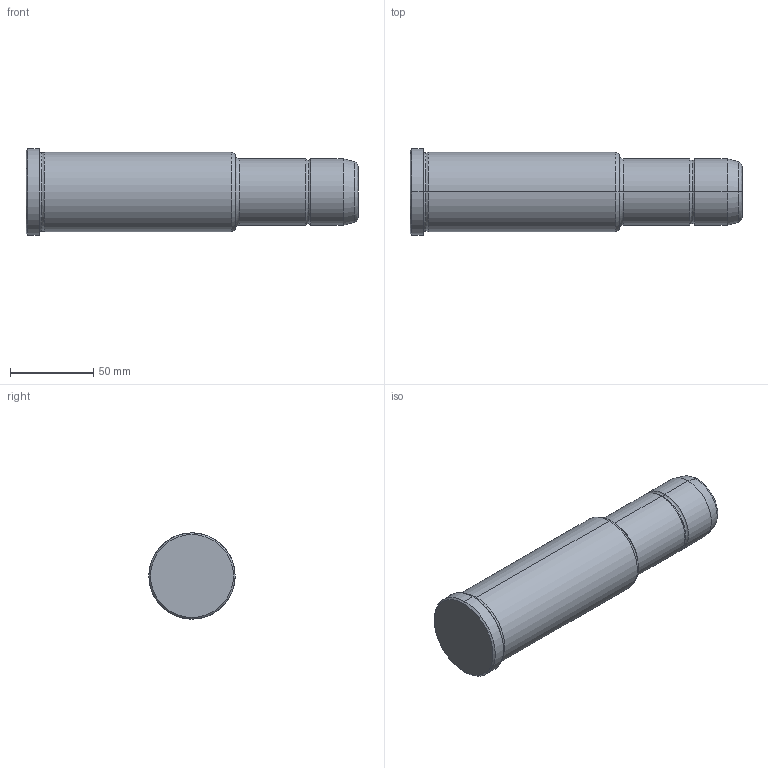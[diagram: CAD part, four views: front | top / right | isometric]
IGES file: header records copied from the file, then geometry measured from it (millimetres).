
Start section: START RECORD GO HERE.
Global section: file name: 351-40X126X200.igs; native system: DASSAULT SYSTEMES CATIA V5 R20 - www.3ds.com; preprocessor: CATIA Version 5 Release 20 ; author: Utente; organization: NB04-ASUS; date: 20211103.201548; units: millimetre
Bounding box: 200 x 52 x 52 mm (x, y, z)
Surface area: 32007.7 mm2 (no closed solid volume)
Topology: 0 solids, 0 shells, 30 faces, 172 edges, 172 vertices
Faces by surface type: revolution 26, plane 4
